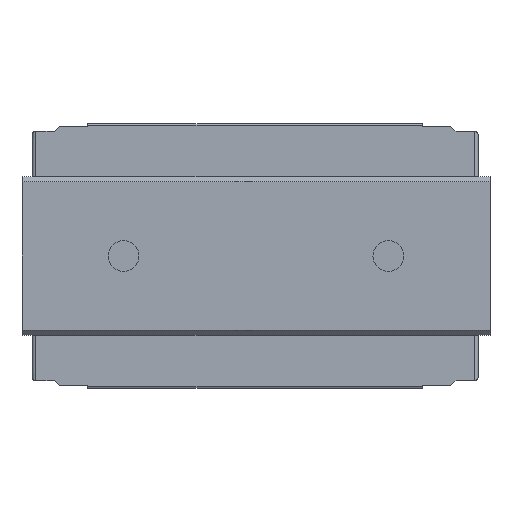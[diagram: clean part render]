
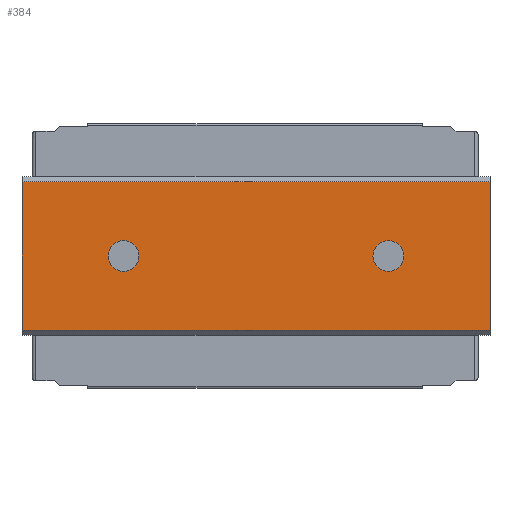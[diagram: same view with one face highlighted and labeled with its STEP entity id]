
A CAD part, front view. The second image highlights one B-rep face of the part: STEP entity #384.
In plain terms, the highlighted planar face has unit normal (0, -1, 0).
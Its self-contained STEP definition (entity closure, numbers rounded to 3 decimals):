
#384 = ADVANCED_FACE( '', ( #768, #769, #770 ), #771, .F. );
#768 = FACE_BOUND( '', #1136, .T. );
#769 = FACE_BOUND( '', #1137, .T. );
#770 = FACE_OUTER_BOUND( '', #1138, .T. );
#771 = PLANE( '', #1139 );
#1136 = EDGE_LOOP( '', ( #2084 ) );
#1137 = EDGE_LOOP( '', ( #2085 ) );
#1138 = EDGE_LOOP( '', ( #2086, #2087, #2088, #2089 ) );
#1139 = AXIS2_PLACEMENT_3D( '', #2090, #2091, #2092 );
#2084 = ORIENTED_EDGE( '', *, *, #2434, .T. );
#2085 = ORIENTED_EDGE( '', *, *, #2394, .T. );
#2086 = ORIENTED_EDGE( '', *, *, #2226, .T. );
#2087 = ORIENTED_EDGE( '', *, *, #2198, .F. );
#2088 = ORIENTED_EDGE( '', *, *, #2130, .F. );
#2089 = ORIENTED_EDGE( '', *, *, #2464, .T. );
#2090 = CARTESIAN_POINT( '', ( 26.5, 0., 8.4 ) );
#2091 = DIRECTION( '', ( 0., 1., 0. ) );
#2092 = DIRECTION( '', ( 0., 0., 1. ) );
#2130 = EDGE_CURVE( '', #2518, #2520, #2521, .T. );
#2198 = EDGE_CURVE( '', #2520, #2630, #2634, .T. );
#2226 = EDGE_CURVE( '', #2682, #2630, #2683, .T. );
#2394 = EDGE_CURVE( '', #2931, #2931, #2932, .T. );
#2434 = EDGE_CURVE( '', #2977, #2977, #2978, .T. );
#2464 = EDGE_CURVE( '', #2518, #2682, #3010, .T. );
#2518 = VERTEX_POINT( '', #3073 );
#2520 = VERTEX_POINT( '', #3076 );
#2521 = LINE( '', #3077, #3078 );
#2630 = VERTEX_POINT( '', #3223 );
#2634 = LINE( '', #3229, #3230 );
#2682 = VERTEX_POINT( '', #3288 );
#2683 = LINE( '', #3289, #3290 );
#2931 = VERTEX_POINT( '', #3632 );
#2932 = CIRCLE( '', #3633, 1.75 );
#2977 = VERTEX_POINT( '', #3692 );
#2978 = CIRCLE( '', #3693, 1.75 );
#3010 = LINE( '', #3741, #3742 );
#3073 = CARTESIAN_POINT( '', ( 26.5, 0., 8.4 ) );
#3076 = CARTESIAN_POINT( '', ( 26.5, 0., -8.4 ) );
#3077 = CARTESIAN_POINT( '', ( 26.5, 0., 8.4 ) );
#3078 = VECTOR( '', #3789, 1000. );
#3223 = CARTESIAN_POINT( '', ( -26.5, 0., -8.4 ) );
#3229 = CARTESIAN_POINT( '', ( 26.5, 0., -8.4 ) );
#3230 = VECTOR( '', #3873, 1000. );
#3288 = CARTESIAN_POINT( '', ( -26.5, 0., 8.4 ) );
#3289 = CARTESIAN_POINT( '', ( -26.5, 0., 8.4 ) );
#3290 = VECTOR( '', #3923, 1000. );
#3632 = CARTESIAN_POINT( '', ( -15., 0., 1.75 ) );
#3633 = AXIS2_PLACEMENT_3D( '', #4117, #4118, #4119 );
#3692 = CARTESIAN_POINT( '', ( 15., 0., 1.75 ) );
#3693 = AXIS2_PLACEMENT_3D( '', #4146, #4147, #4148 );
#3741 = CARTESIAN_POINT( '', ( 26.5, 0., 8.4 ) );
#3742 = VECTOR( '', #4171, 1000. );
#3789 = DIRECTION( '', ( 0., 0., -1. ) );
#3873 = DIRECTION( '', ( -1., 0., 0. ) );
#3923 = DIRECTION( '', ( 0., 0., -1. ) );
#4117 = CARTESIAN_POINT( '', ( -15., 0., 0. ) );
#4118 = DIRECTION( '', ( 0., 1., 0. ) );
#4119 = DIRECTION( '', ( 0., 0., 1. ) );
#4146 = CARTESIAN_POINT( '', ( 15., 0., 0. ) );
#4147 = DIRECTION( '', ( 0., 1., 0. ) );
#4148 = DIRECTION( '', ( 0., 0., 1. ) );
#4171 = DIRECTION( '', ( -1., 0., 0. ) );
